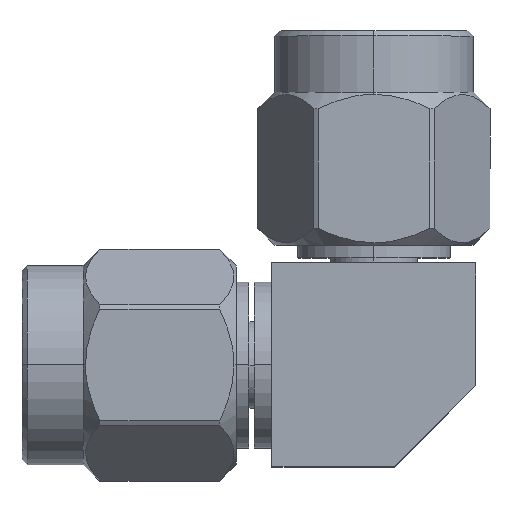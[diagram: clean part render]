
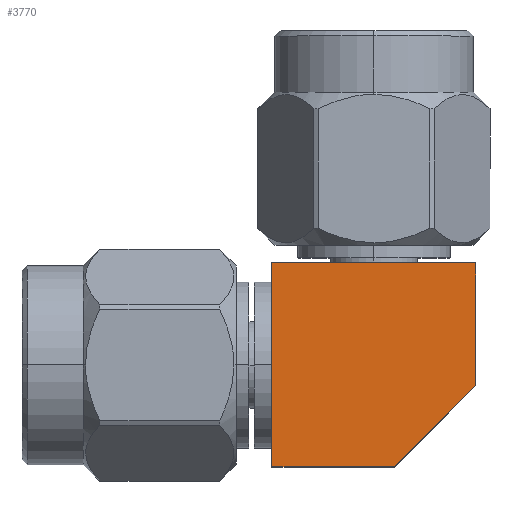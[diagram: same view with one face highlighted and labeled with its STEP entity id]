
A CAD part, top view. The second image highlights one B-rep face of the part: STEP entity #3770.
In plain terms, the highlighted planar face has unit normal (0, 0, 1).
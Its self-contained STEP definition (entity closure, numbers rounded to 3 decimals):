
#66 = VERTEX_POINT ( 'NONE', #911 ) ;
#129 = CARTESIAN_POINT ( 'NONE',  ( 0., 0., 3.5 ) ) ;
#136 = CARTESIAN_POINT ( 'NONE',  ( -0.5, -4., 3.5 ) ) ;
#179 = VERTEX_POINT ( 'NONE', #2595 ) ;
#203 = VECTOR ( 'NONE', #588, 1000. ) ;
#293 = LINE ( 'NONE', #1234, #3416 ) ;
#357 = DIRECTION ( 'NONE',  ( -1., 0., 0. ) ) ;
#382 = PLANE ( 'NONE',  #3576 ) ;
#445 = DIRECTION ( 'NONE',  ( 0., 0., -1. ) ) ;
#572 = VERTEX_POINT ( 'NONE', #3848 ) ;
#588 = DIRECTION ( 'NONE',  ( 0., 1., 0. ) ) ;
#880 = FACE_OUTER_BOUND ( 'NONE', #2489, .T. ) ;
#911 = CARTESIAN_POINT ( 'NONE',  ( 7.5, 4., 3.5 ) ) ;
#1234 = CARTESIAN_POINT ( 'NONE',  ( 0., -4., 3.5 ) ) ;
#1247 = CARTESIAN_POINT ( 'NONE',  ( 4.308, -4., 3.5 ) ) ;
#1274 = ORIENTED_EDGE ( 'NONE', *, *, #2899, .F. ) ;
#1460 = EDGE_CURVE ( 'NONE', #572, #2538, #3165, .T. ) ;
#1535 = DIRECTION ( 'NONE',  ( 0., -1., 0. ) ) ;
#1590 = VECTOR ( 'NONE', #1535, 1000. ) ;
#1748 = EDGE_CURVE ( 'NONE', #179, #66, #1847, .T. ) ;
#1775 = ORIENTED_EDGE ( 'NONE', *, *, #2328, .T. ) ;
#1783 = LINE ( 'NONE', #3586, #2592 ) ;
#1847 = LINE ( 'NONE', #2480, #203 ) ;
#1876 = ORIENTED_EDGE ( 'NONE', *, *, #2246, .T. ) ;
#2246 = EDGE_CURVE ( 'NONE', #2538, #2900, #293, .T. ) ;
#2257 = CARTESIAN_POINT ( 'NONE',  ( -0.5, 4., 3.5 ) ) ;
#2328 = EDGE_CURVE ( 'NONE', #66, #572, #3244, .T. ) ;
#2480 = CARTESIAN_POINT ( 'NONE',  ( 7.5, 4., 3.5 ) ) ;
#2489 = EDGE_LOOP ( 'NONE', ( #1274, #3271, #1775, #2659, #1876 ) ) ;
#2538 = VERTEX_POINT ( 'NONE', #136 ) ;
#2592 = VECTOR ( 'NONE', #3858, 1000. ) ;
#2595 = CARTESIAN_POINT ( 'NONE',  ( 7.5, -0.808, 3.5 ) ) ;
#2637 = DIRECTION ( 'NONE',  ( -1., 0., 0. ) ) ;
#2659 = ORIENTED_EDGE ( 'NONE', *, *, #1460, .T. ) ;
#2899 = EDGE_CURVE ( 'NONE', #179, #2900, #1783, .T. ) ;
#2900 = VERTEX_POINT ( 'NONE', #1247 ) ;
#3019 = CARTESIAN_POINT ( 'NONE',  ( -0.5, -4., 3.5 ) ) ;
#3165 = LINE ( 'NONE', #3019, #1590 ) ;
#3244 = LINE ( 'NONE', #2257, #3857 ) ;
#3271 = ORIENTED_EDGE ( 'NONE', *, *, #1748, .T. ) ;
#3416 = VECTOR ( 'NONE', #3849, 1000. ) ;
#3576 = AXIS2_PLACEMENT_3D ( 'NONE', #129, #445, #2637 ) ;
#3586 = CARTESIAN_POINT ( 'NONE',  ( 4.154, -4.154, 3.5 ) ) ;
#3770 = ADVANCED_FACE ( 'NONE', ( #880 ), #382, .F. ) ;
#3848 = CARTESIAN_POINT ( 'NONE',  ( -0.5, 4., 3.5 ) ) ;
#3849 = DIRECTION ( 'NONE',  ( 1., 0., 0. ) ) ;
#3857 = VECTOR ( 'NONE', #357, 1000. ) ;
#3858 = DIRECTION ( 'NONE',  ( -0.707, -0.707, 0. ) ) ;
